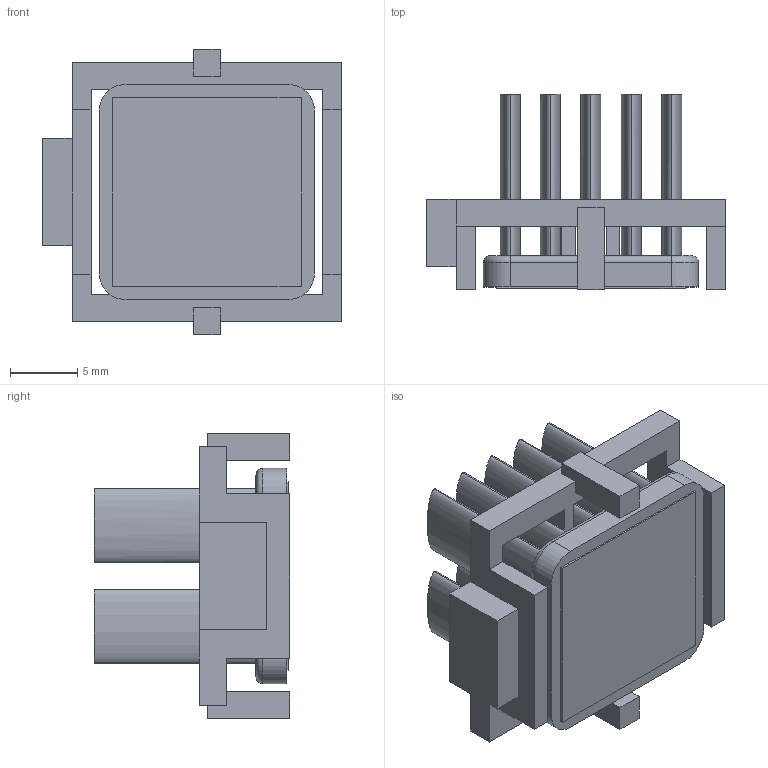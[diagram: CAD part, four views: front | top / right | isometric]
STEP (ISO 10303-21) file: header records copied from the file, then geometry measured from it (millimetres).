
FILE_DESCRIPTION (( 'STEP AP214' ), '1' );
FILE_NAME ('INM16001-14W-2.3O.STEP', '2023-03-29T23:22:31', ( '' ), ( '' ), 'SwSTEP 2.0', 'SolidWorks 2020', '' );
FILE_SCHEMA (( 'AUTOMOTIVE_DESIGN' ));
Length unit declared in the file: millimetre
Products named in the file (1): INM16001-14W-2.3O
Bounding box: 22.2 x 14.5 x 21.2 mm (x, y, z)
Volume: 1953.3 mm3; surface area: 3506.6 mm2
Topology: 3 solids, 3 shells, 99 faces, 244 edges, 160 vertices
Faces by surface type: plane 67, bspline 20, cylinder 8, torus 4
Entity records: 4079 total; most frequent: CARTESIAN_POINT 764, ORIENTED_EDGE 488, DIRECTION 384, EDGE_CURVE 244, VECTOR 184, LINE 184, VERTEX_POINT 160, EDGE_LOOP 110
